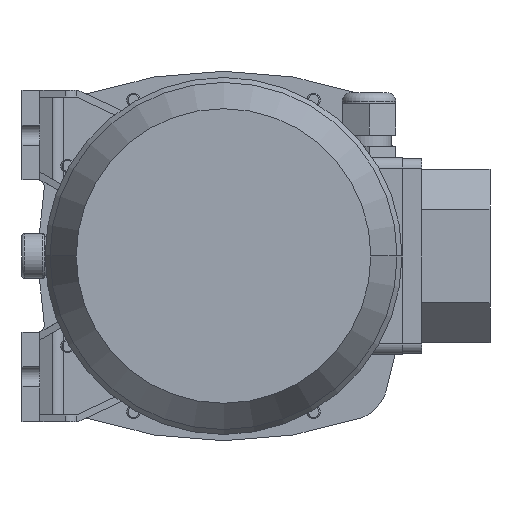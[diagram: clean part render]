
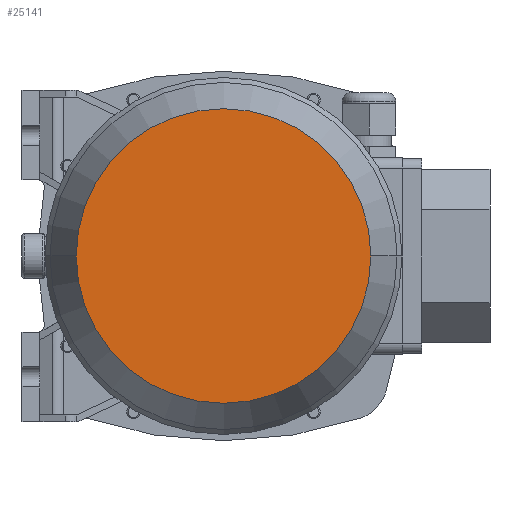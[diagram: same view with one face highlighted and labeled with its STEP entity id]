
A CAD part, front view. The second image highlights one B-rep face of the part: STEP entity #25141.
In plain terms, the highlighted planar face has unit normal (0, -1, 0) as drawn and (1, 0, 0) by its records, which use the part's own axes.
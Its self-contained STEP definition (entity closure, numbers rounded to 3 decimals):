
#18453=CARTESIAN_POINT('',(228.,0.,0.));
#18454=DIRECTION('',(-1.,0.,0.));
#18455=DIRECTION('',(0.,1.,0.));
#18456=AXIS2_PLACEMENT_3D('',#18453,#18454,#18455);
#18461=CARTESIAN_POINT('',(228.,0.,0.));
#18462=DIRECTION('',(1.,0.,0.));
#18463=DIRECTION('',(0.,1.,0.));
#18464=AXIS2_PLACEMENT_3D('',#18461,#18462,#18463);
#20434=CARTESIAN_POINT('',(228.,65.794,0.));
#20436=VERTEX_POINT('',#20434);
#20444=CARTESIAN_POINT('',(228.,-65.794,0.));
#20446=VERTEX_POINT('',#20444);
#25132=CARTESIAN_POINT('',(228.,0.,0.));
#25133=DIRECTION('',(1.,0.,0.));
#25134=DIRECTION('',(0.,-1.,0.));
#25135=AXIS2_PLACEMENT_3D('',#25132,#25133,#25134);
#25136=PLANE('',#25135);
#25137=ORIENTED_EDGE('',*,*,#25114,.T.);
#25138=ORIENTED_EDGE('',*,*,#25125,.F.);
#25139=EDGE_LOOP('',(#25137,#25138));
#25140=FACE_OUTER_BOUND('',#25139,.F.);
#18457=CIRCLE('',#18456,65.794);
#18465=CIRCLE('',#18464,65.794);
#25114=EDGE_CURVE('',#20436,#20446,#18457,.T.);
#25125=EDGE_CURVE('',#20436,#20446,#18465,.T.);
#25141=ADVANCED_FACE('',(#25140),#25136,.T.);
